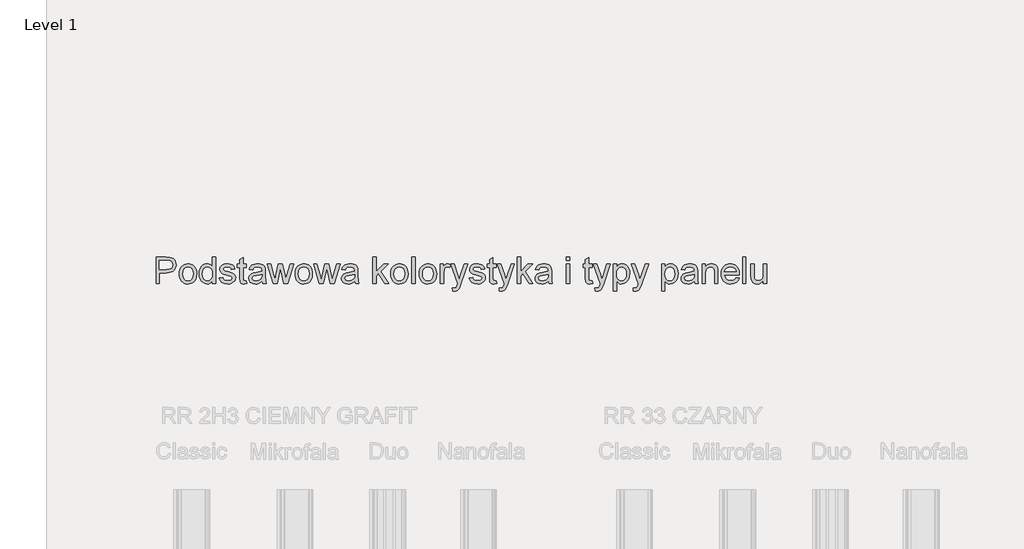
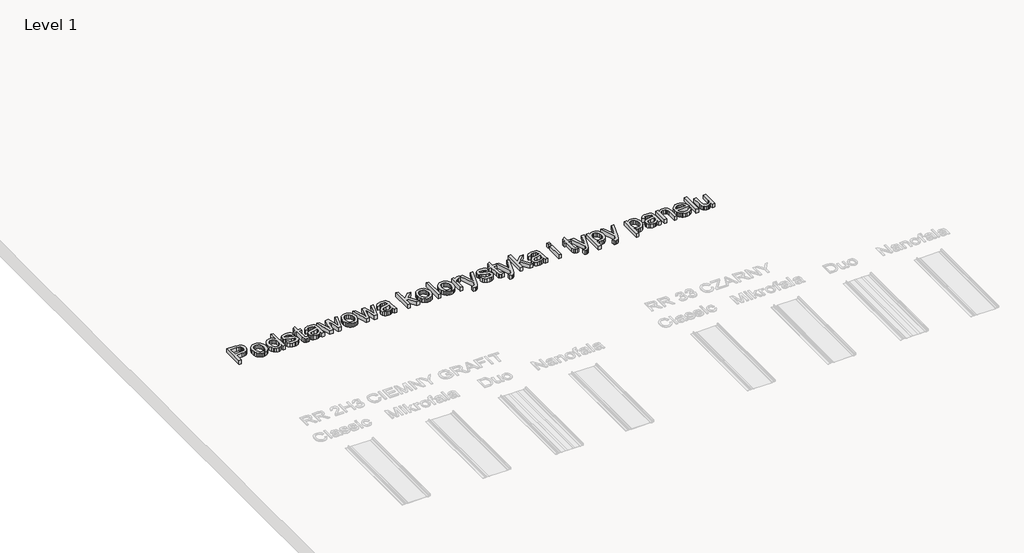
# One storey, part 20 of 24: 1 proxy.
"""IFC4 building model written with IfcOpenShell, lengths in millimetres."""

from ifc_helpers import new_model, si_unit, frame, origin, place, context, project, spatial, polyline, outline, extrude, element, save

model = new_model("IFC4")

# Units and contexts
model_context = context("Model", 3, world=origin())
ifc_project = project(units=[si_unit("LENGTHUNIT", "METRE", prefix="MILLI")], contexts=[model_context])

# Site, building, storey
site = spatial("IfcSite", under=ifc_project)
building = spatial("IfcBuilding", under=site)
storey = spatial("IfcBuildingStorey", under=building, Name="Level 1", Elevation=0.0)

# Proxy
placement = place(None, origin())
element("IfcBuildingElementProxy", 1, Name="250", ObjectType="250", at=placement, inside=storey, context=model_context, shape_type="SweptSolid", body=[
    extrude(outline(polyline([(-8797.1954693, 2793.1104745), (-8797.1954693, 3044.2512499), (-8704.1213245, 3044.2512499), (-8666.597361, 3041.8600169), (-8649.8663944, 3037.3917835), (-8636.0938123, 3030.1184499), (-8625.0037029, 3019.7104551), (-8616.320155, 3005.8382382), (-8610.7099546, 2989.4751536), (-8608.8398878, 2971.5945558), (-8613.890601, 2941.9953836), (-8629.0427407, 2917.3319616), (-8641.1770984, 2907.6214097), (-8657.3773185, 2900.6853013), (-8677.6434011, 2896.5236362), (-8701.9753462, 2895.1364145), (-8765.8028724, 2895.1364145), (-8765.8028724, 2793.1104745), (-8797.1954693, 2793.1104745)]), holes=[polyline([(-8765.8028724, 2926.5290114), (-8700.1359362, 2926.5290114), (-8672.2995319, 2929.4107537), (-8653.9054322, 2938.0559806), (-8643.6507216, 2951.9281975), (-8640.2324847, 2970.4909099), (-8642.2481715, 2984.593053), (-8648.2952318, 2996.4879042), (-8657.6225732, 3005.4396994), (-8669.4791033, 3010.7126747), (-8700.8717002, 3012.858653), (-8765.8028724, 3012.858653), (-8765.8028724, 2926.5290114)])]), frame((0.0, 0.0, 600.0), z_axis=(0.0, 0.0, 1.0), x_axis=(1.0, 0.0, 0.0)), (0.0, 0.0, 1.0), 50.0),
    extrude(outline(polyline([(-8577.4472909, 2885.326228), (-8575.7496687, 2909.2117329), (-8570.6568024, 2929.7939641), (-8562.1686917, 2947.0729216), (-8550.2853369, 2961.0486053), (-8525.116077, 2976.3616934), (-8494.9804103, 2981.466056), (-8477.6612157, 2979.9121378), (-8462.0013222, 2975.2503832), (-8448.0007299, 2967.4807921), (-8435.6594385, 2956.6033645), (-8425.5867529, 2942.9859826), (-8418.3919774, 2926.9965281), (-8414.0751121, 2908.6350013), (-8412.636157, 2887.9014019), (-8415.1806741, 2856.1869083), (-8422.8142255, 2832.0446523), (-8435.3145492, 2813.9647851), (-8452.459383, 2800.4374576), (-8472.8231843, 2791.9991643), (-8494.9804103, 2789.1863999), (-8512.5525237, 2790.73457), (-8528.3580371, 2795.3790802), (-8542.3969506, 2803.1199305), (-8554.669264, 2813.9571209), (-8564.6346507, 2827.7067105), (-8571.7527841, 2844.1847582), (-8576.0236642, 2863.391264), (-8577.4472909, 2885.326228)]), holes=[polyline([(-8546.0546939, 2885.3875416), (-8542.4218592, 2856.9763217), (-8531.5233551, 2836.7351478), (-8515.1219495, 2824.6180346), (-8494.9804103, 2820.5789968), (-8474.9308415, 2824.6410272), (-8458.5600927, 2836.8271183), (-8447.6615886, 2857.3365395), (-8444.0287539, 2886.3685603), (-8447.6845813, 2913.9520457), (-8458.6520632, 2933.9173082), (-8475.0458047, 2946.0344214), (-8494.9804103, 2950.0734591), (-8515.1219495, 2946.0497498), (-8531.5233551, 2933.9786218), (-8542.4218592, 2913.7834331), (-8546.0546939, 2885.3875416)])]), frame((0.0, 0.0, 600.0), z_axis=(0.0, 0.0, 1.0), x_axis=(1.0, 0.0, 0.0)), (0.0, 0.0, 1.0), 50.0),
    extrude(outline(polyline([(-8263.5213216, 2793.1104745), (-8263.5213216, 2822.7249751), (-8272.9138088, 2808.0518485), (-8284.2913259, 2797.5710437), (-8297.653873, 2791.2825609), (-8313.00145, 2789.1863999), (-8333.2962734, 2792.2214264), (-8351.8743141, 2801.3265057), (-8367.6012694, 2815.8655088), (-8379.3428365, 2835.2023061), (-8386.6544911, 2858.5551486), (-8389.0917093, 2885.142287), (-8386.8460963, 2911.3998644), (-8380.1092573, 2935.1129247), (-8368.8888564, 2954.9325671), (-8353.192558, 2969.5098912), (-8334.2083142, 2978.4770148), (-8313.1240773, 2981.466056), (-8297.765004, 2979.3277419), (-8284.184027, 2972.9127997), (-8272.6723863, 2963.0796205), (-8263.5213216, 2950.6865958), (-8263.5213216, 3044.2512499), (-8232.1287247, 3044.2512499), (-8232.1287247, 2793.1104745), (-8263.5213216, 2793.1104745)]), holes=[polyline([(-8357.6991124, 2885.2649143), (-8354.1582482, 2856.8690228), (-8343.5356556, 2836.6738341), (-8328.0999402, 2824.6027061), (-8310.1197077, 2820.5789968), (-8292.1471394, 2824.4187651), (-8277.1022986, 2835.9380701), (-8266.9165659, 2855.3515096), (-8263.5213216, 2882.8736813), (-8266.9778795, 2912.9633629), (-8277.3475533, 2933.8253377), (-8292.7756045, 2946.0114288), (-8311.4072947, 2950.0734591), (-8329.5714682, 2946.1723771), (-8344.4553606, 2934.4691312), (-8354.3881744, 2914.365913), (-8357.6991124, 2885.2649143)])]), frame((0.0, 0.0, 600.0), z_axis=(0.0, 0.0, 1.0), x_axis=(1.0, 0.0, 0.0)), (0.0, 0.0, 1.0), 50.0),
    extrude(outline(polyline([(-8196.8120532, 2848.0475191), (-8165.4194563, 2851.9715937), (-8160.4683777, 2838.5439009), (-8150.8881174, 2828.6724007), (-8136.6173617, 2822.6023478), (-8117.5947969, 2820.5789968), (-8098.8021583, 2822.4337352), (-8085.5890633, 2827.9979504), (-8077.7715709, 2836.0606975), (-8075.1657401, 2845.4110315), (-8077.7868993, 2853.4124649), (-8085.650377, 2859.5131746), (-8117.9626789, 2868.4649699), (-8165.2355153, 2883.8240432), (-8177.1993443, 2891.5419009), (-8185.8675638, 2901.7582904), (-8191.1328749, 2913.8217542), (-8192.8879786, 2927.0808344), (-8187.2471213, 2950.471998), (-8171.8573912, 2968.3449316), (-8151.8997929, 2977.6339519), (-8124.8911231, 2981.466056), (-8104.458344, 2979.9255502), (-8086.6927093, 2975.3040326), (-8072.4066251, 2968.0536916), (-8062.4124976, 2958.6267155), (-8055.7906217, 2946.3256613), (-8051.6212924, 2930.453086), (-8083.0138893, 2926.5290114), (-8086.976285, 2936.4081758), (-8094.81677, 2943.850122), (-8106.6119865, 2948.5176249), (-8122.4385765, 2950.0734591), (-8140.4647942, 2948.5866027), (-8152.4822728, 2944.1260335), (-8159.2421044, 2937.6880986), (-8161.4953816, 2930.2691451), (-8157.755248, 2921.1334088), (-8146.0443378, 2914.2049646), (-8119.0050112, 2907.521775), (-8072.9277913, 2892.7451815), (-8060.7570286, 2885.6787816), (-8051.5293219, 2876.0065508), (-8045.7121879, 2863.6978323), (-8043.7731432, 2848.7219695), (-8046.049413, 2833.2402688), (-8052.8782226, 2818.6782732), (-8063.9989887, 2806.1779496), (-8079.1511284, 2796.881265), (-8097.4532576, 2791.1101162), (-8118.0239925, 2789.1863999), (-8149.6771725, 2792.8958767), (-8172.7770962, 2804.024307), (-8188.1974831, 2822.4490636), (-8196.8120532, 2848.0475191)])), frame((0.0, 0.0, 600.0), z_axis=(0.0, 0.0, 1.0), x_axis=(1.0, 0.0, 0.0)), (0.0, 0.0, 1.0), 50.0),
    extrude(outline(polyline([(-7941.7472032, 2819.2914098), (-7937.8231286, 2792.1907695), (-7961.3062626, 2789.1863999), (-7976.374096, 2790.4893153), (-7987.6098253, 2794.3980615), (-8000.7309497, 2808.071009), (-8004.532397, 2843.6942489), (-8004.532397, 2946.1493845), (-8028.0768447, 2946.1493845), (-8028.0768447, 2977.5419814), (-8004.532397, 2977.5419814), (-8004.532397, 3022.3622712), (-7973.1398001, 3040.8176846), (-7973.1398001, 2977.5419814), (-7941.7472032, 2977.5419814), (-7941.7472032, 2946.1493845), (-7973.1398001, 2946.1493845), (-7973.1398001, 2844.6139538), (-7971.4843311, 2828.4271461), (-7966.1193854, 2822.6943183), (-7955.4201507, 2820.5789968), (-7941.7472032, 2819.2914098)])), frame((0.0, 0.0, 600.0), z_axis=(0.0, 0.0, 1.0), x_axis=(1.0, 0.0, 0.0)), (0.0, 0.0, 1.0), 50.0),
    extrude(outline(polyline([(-7792.6323678, 2816.6549222), (-7807.6312233, 2803.7943808), (-7823.0746029, 2795.3790802), (-7839.3150602, 2790.73457), (-7856.7051486, 2789.1863999), (-7882.9397334, 2792.9112051), (-7902.2918592, 2804.0856207), (-7914.2250314, 2821.0541777), (-7918.2027555, 2842.1614072), (-7916.7005707, 2855.1752328), (-7912.1940162, 2866.9934419), (-7896.4057473, 2885.0196596), (-7874.4247981, 2895.3203555), (-7847.2628441, 2900.0415078), (-7792.8163088, 2910.832713), (-7792.6323678, 2917.8224709), (-7794.7936745, 2931.8326435), (-7801.2775947, 2940.9990366), (-7815.7782767, 2947.8048535), (-7835.9811296, 2950.0734591), (-7854.6817977, 2948.5636101), (-7867.7416085, 2944.034063), (-7876.6474185, 2935.6570834), (-7882.886084, 2922.6049368), (-7914.2786809, 2926.5290114), (-7908.8294288, 2943.6968379), (-7900.6977039, 2957.1858444), (-7889.1247495, 2967.5018686), (-7873.3518089, 2975.1507485), (-7854.0609968, 2979.8872292), (-7831.9344276, 2981.466056), (-7810.712235, 2980.0711701), (-7793.889298, 2975.8865125), (-7781.2050333, 2969.5941975), (-7772.3988581, 2961.8763398), (-7762.7726125, 2940.5698409), (-7761.2397709, 2913.1013186), (-7761.2397709, 2874.0445135), (-7759.6456156, 2819.5060077), (-7753.3916217, 2793.1104745), (-7784.7842186, 2793.1104745), (-7792.6323678, 2816.6549222)]), holes=[polyline([(-7792.6323678, 2879.4401161), (-7843.2774558, 2869.8138705), (-7870.2861256, 2864.7248362), (-7882.518202, 2856.4474914), (-7886.8101586, 2844.3686992), (-7884.4725751, 2835.0336935), (-7877.4598245, 2827.3848137), (-7865.9251911, 2822.280451), (-7850.0219591, 2820.5789968), (-7833.1607009, 2822.4567278), (-7818.2614801, 2828.0899209), (-7806.182688, 2836.3902584), (-7797.7827157, 2846.2694228), (-7794.0579105, 2856.4474914), (-7792.8163088, 2870.5496345), (-7792.6323678, 2879.4401161)])]), frame((0.0, 0.0, 600.0), z_axis=(0.0, 0.0, 1.0), x_axis=(1.0, 0.0, 0.0)), (0.0, 0.0, 1.0), 50.0),
    extrude(outline(polyline([(-7687.2341762, 2793.1104745), (-7743.5814351, 2977.5419814), (-7711.0238785, 2977.5419814), (-7679.1407723, 2869.9364978), (-7669.6371541, 2831.4928293), (-7661.8503185, 2868.5262835), (-7636.5277745, 2977.5419814), (-7599.2490657, 2977.5419814), (-7573.9265217, 2868.8328519), (-7566.9980774, 2835.2942766), (-7557.0652636, 2870.6722618), (-7525.1821573, 2977.5419814), (-7492.4406597, 2977.5419814), (-7548.9718597, 2793.1104745), (-7586.8637052, 2793.1104745), (-7611.0212895, 2901.2677811), (-7618.0110474, 2934.9902973), (-7649.097076, 2793.1104745), (-7687.2341762, 2793.1104745)])), frame((0.0, 0.0, 600.0), z_axis=(0.0, 0.0, 1.0), x_axis=(1.0, 0.0, 0.0)), (0.0, 0.0, 1.0), 50.0),
    extrude(outline(polyline([(-7478.7063986, 2885.326228), (-7477.0087765, 2909.2117329), (-7471.9159101, 2929.7939641), (-7463.4277995, 2947.0729216), (-7451.5444446, 2961.0486053), (-7426.3751848, 2976.3616934), (-7396.239518, 2981.466056), (-7378.9203235, 2979.9121378), (-7363.26043, 2975.2503832), (-7349.2598376, 2967.4807921), (-7336.9185463, 2956.6033645), (-7326.8458606, 2942.9859826), (-7319.6510851, 2926.9965281), (-7315.3342198, 2908.6350013), (-7313.8952648, 2887.9014019), (-7316.4397819, 2856.1869083), (-7324.0733333, 2832.0446523), (-7336.5736569, 2813.9647851), (-7353.7184907, 2800.4374576), (-7374.082292, 2791.9991643), (-7396.239518, 2789.1863999), (-7413.8116314, 2790.73457), (-7429.6171449, 2795.3790802), (-7443.6560583, 2803.1199305), (-7455.9283717, 2813.9571209), (-7465.8937585, 2827.7067105), (-7473.0118919, 2844.1847582), (-7477.2827719, 2863.391264), (-7478.7063986, 2885.326228)]), holes=[polyline([(-7447.3138017, 2885.3875416), (-7443.680967, 2856.9763217), (-7432.7824629, 2836.7351478), (-7416.3810572, 2824.6180346), (-7396.239518, 2820.5789968), (-7376.1899493, 2824.6410272), (-7359.8192005, 2836.8271183), (-7348.9206964, 2857.3365395), (-7345.2878617, 2886.3685603), (-7348.943689, 2913.9520457), (-7359.911171, 2933.9173082), (-7376.3049124, 2946.0344214), (-7396.239518, 2950.0734591), (-7416.3810572, 2946.0497498), (-7432.7824629, 2933.9786218), (-7443.680967, 2913.7834331), (-7447.3138017, 2885.3875416)])]), frame((0.0, 0.0, 600.0), z_axis=(0.0, 0.0, 1.0), x_axis=(1.0, 0.0, 0.0)), (0.0, 0.0, 1.0), 50.0),
    extrude(outline(polyline([(-7247.7378193, 2793.1104745), (-7304.0850782, 2977.5419814), (-7271.5275216, 2977.5419814), (-7239.6444154, 2869.9364978), (-7230.1407972, 2831.4928293), (-7222.3539616, 2868.5262835), (-7197.0314176, 2977.5419814), (-7159.7527088, 2977.5419814), (-7134.4301648, 2868.8328519), (-7127.5017205, 2835.2942766), (-7117.5689067, 2870.6722618), (-7085.6858004, 2977.5419814), (-7052.9443028, 2977.5419814), (-7109.4755028, 2793.1104745), (-7147.3673483, 2793.1104745), (-7171.5249326, 2901.2677811), (-7178.5146905, 2934.9902973), (-7209.6007191, 2793.1104745), (-7247.7378193, 2793.1104745)])), frame((0.0, 0.0, 600.0), z_axis=(0.0, 0.0, 1.0), x_axis=(1.0, 0.0, 0.0)), (0.0, 0.0, 1.0), 50.0),
    extrude(outline(polyline([(-6913.639654, 2816.6549222), (-6928.6385095, 2803.7943808), (-6944.0818891, 2795.3790802), (-6960.3223463, 2790.73457), (-6977.7124348, 2789.1863999), (-7003.9470196, 2792.9112051), (-7023.2991454, 2804.0856207), (-7035.2323176, 2821.0541777), (-7039.2100417, 2842.1614072), (-7037.7078569, 2855.1752328), (-7033.2013024, 2866.9934419), (-7017.4130335, 2885.0196596), (-6995.4320843, 2895.3203555), (-6968.2701303, 2900.0415078), (-6913.823595, 2910.832713), (-6913.639654, 2917.8224709), (-6915.8009607, 2931.8326435), (-6922.2848809, 2940.9990366), (-6936.7855629, 2947.8048535), (-6956.9884158, 2950.0734591), (-6975.6890839, 2948.5636101), (-6988.7488947, 2944.034063), (-6997.6547046, 2935.6570834), (-7003.8933702, 2922.6049368), (-7035.2859671, 2926.5290114), (-7029.836715, 2943.6968379), (-7021.7049901, 2957.1858444), (-7010.1320357, 2967.5018686), (-6994.3590951, 2975.1507485), (-6975.068283, 2979.8872292), (-6952.9417138, 2981.466056), (-6931.7195212, 2980.0711701), (-6914.8965842, 2975.8865125), (-6902.2123195, 2969.5941975), (-6893.4061443, 2961.8763398), (-6883.7798987, 2940.5698409), (-6882.2470571, 2913.1013186), (-6882.2470571, 2874.0445135), (-6880.6529018, 2819.5060077), (-6874.3989078, 2793.1104745), (-6905.7915048, 2793.1104745), (-6913.639654, 2816.6549222)]), holes=[polyline([(-6913.639654, 2879.4401161), (-6964.284742, 2869.8138705), (-6991.2934118, 2864.7248362), (-7003.5254882, 2856.4474914), (-7007.8174448, 2844.3686992), (-7005.4798613, 2835.0336935), (-6998.4671107, 2827.3848137), (-6986.9324773, 2822.280451), (-6971.0292452, 2820.5789968), (-6954.1679871, 2822.4567278), (-6939.2687663, 2828.0899209), (-6927.1899742, 2836.3902584), (-6918.7900019, 2846.2694228), (-6915.0651967, 2856.4474914), (-6913.823595, 2870.5496345), (-6913.639654, 2879.4401161)])]), frame((0.0, 0.0, 600.0), z_axis=(0.0, 0.0, 1.0), x_axis=(1.0, 0.0, 0.0)), (0.0, 0.0, 1.0), 50.0),
    extrude(outline(polyline([(-6740.9803709, 2793.1104745), (-6740.9803709, 3044.2512499), (-6709.587774, 3044.2512499), (-6709.587774, 2909.2998713), (-6639.1996856, 2977.5419814), (-6595.7896102, 2977.5419814), (-6667.0974036, 2908.44148), (-6591.8655356, 2793.1104745), (-6628.5311077, 2793.1104745), (-6689.5995189, 2886.613815), (-6709.587774, 2867.1773829), (-6709.587774, 2793.1104745), (-6740.9803709, 2793.1104745)])), frame((0.0, 0.0, 600.0), z_axis=(0.0, 0.0, 1.0), x_axis=(1.0, 0.0, 0.0)), (0.0, 0.0, 1.0), 50.0),
    extrude(outline(polyline([(-6572.2451625, 2885.326228), (-6570.5475404, 2909.2117329), (-6565.454674, 2929.7939641), (-6556.9665634, 2947.0729216), (-6545.0832085, 2961.0486053), (-6519.9139487, 2976.3616934), (-6489.7782819, 2981.466056), (-6472.4590873, 2979.9121378), (-6456.7991939, 2975.2503832), (-6442.7986015, 2967.4807921), (-6430.4573102, 2956.6033645), (-6420.3846245, 2942.9859826), (-6413.189849, 2926.9965281), (-6408.8729837, 2908.6350013), (-6407.4340286, 2887.9014019), (-6409.9785458, 2856.1869083), (-6417.6120972, 2832.0446523), (-6430.1124208, 2813.9647851), (-6447.2572546, 2800.4374576), (-6467.6210559, 2791.9991643), (-6489.7782819, 2789.1863999), (-6507.3503953, 2790.73457), (-6523.1559087, 2795.3790802), (-6537.1948222, 2803.1199305), (-6549.4671356, 2813.9571209), (-6559.4325224, 2827.7067105), (-6566.5506558, 2844.1847582), (-6570.8215358, 2863.391264), (-6572.2451625, 2885.326228)]), holes=[polyline([(-6540.8525656, 2885.3875416), (-6537.2197309, 2856.9763217), (-6526.3212267, 2836.7351478), (-6509.9198211, 2824.6180346), (-6489.7782819, 2820.5789968), (-6469.7287132, 2824.6410272), (-6453.3579644, 2836.8271183), (-6442.4594603, 2857.3365395), (-6438.8266256, 2886.3685603), (-6442.4824529, 2913.9520457), (-6453.4499349, 2933.9173082), (-6469.8436763, 2946.0344214), (-6489.7782819, 2950.0734591), (-6509.9198211, 2946.0497498), (-6526.3212267, 2933.9786218), (-6537.2197309, 2913.7834331), (-6540.8525656, 2885.3875416)])]), frame((0.0, 0.0, 600.0), z_axis=(0.0, 0.0, 1.0), x_axis=(1.0, 0.0, 0.0)), (0.0, 0.0, 1.0), 50.0),
    extrude(outline(polyline([(-6372.1173571, 2793.1104745), (-6372.1173571, 3044.2512499), (-6340.7247602, 3044.2512499), (-6340.7247602, 2793.1104745), (-6372.1173571, 2793.1104745)])), frame((0.0, 0.0, 600.0), z_axis=(0.0, 0.0, 1.0), x_axis=(1.0, 0.0, 0.0)), (0.0, 0.0, 1.0), 50.0),
    extrude(outline(polyline([(-6301.484014, 2885.326228), (-6299.7863919, 2909.2117329), (-6294.6935255, 2929.7939641), (-6286.2054149, 2947.0729216), (-6274.32206, 2961.0486053), (-6249.1528002, 2976.3616934), (-6219.0171334, 2981.466056), (-6201.6979389, 2979.9121378), (-6186.0380454, 2975.2503832), (-6172.037453, 2967.4807921), (-6159.6961617, 2956.6033645), (-6149.623476, 2942.9859826), (-6142.4287006, 2926.9965281), (-6138.1118353, 2908.6350013), (-6136.6728802, 2887.9014019), (-6139.2173973, 2856.1869083), (-6146.8509487, 2832.0446523), (-6159.3512723, 2813.9647851), (-6176.4961062, 2800.4374576), (-6196.8599074, 2791.9991643), (-6219.0171334, 2789.1863999), (-6236.5892469, 2790.73457), (-6252.3947603, 2795.3790802), (-6266.4336737, 2803.1199305), (-6278.7059872, 2813.9571209), (-6288.6713739, 2827.7067105), (-6295.7895073, 2844.1847582), (-6300.0603873, 2863.391264), (-6301.484014, 2885.326228)]), holes=[polyline([(-6270.0914171, 2885.3875416), (-6266.4585824, 2856.9763217), (-6255.5600783, 2836.7351478), (-6239.1586727, 2824.6180346), (-6219.0171334, 2820.5789968), (-6198.9675647, 2824.6410272), (-6182.5968159, 2836.8271183), (-6171.6983118, 2857.3365395), (-6168.0654771, 2886.3685603), (-6171.7213044, 2913.9520457), (-6182.6887864, 2933.9173082), (-6199.0825278, 2946.0344214), (-6219.0171334, 2950.0734591), (-6239.1586727, 2946.0497498), (-6255.5600783, 2933.9786218), (-6266.4585824, 2913.7834331), (-6270.0914171, 2885.3875416)])]), frame((0.0, 0.0, 600.0), z_axis=(0.0, 0.0, 1.0), x_axis=(1.0, 0.0, 0.0)), (0.0, 0.0, 1.0), 50.0),
    extrude(outline(polyline([(-6101.3562087, 2793.1104745), (-6101.3562087, 2977.5419814), (-6073.8876863, 2977.5419814), (-6073.8876863, 2950.2574001), (-6063.7402746, 2966.0763259), (-6054.3899406, 2975.3960031), (-6034.7695675, 2981.466056), (-6019.1345827, 2979.0441662), (-6003.2543433, 2971.7784968), (-6013.7389801, 2943.6355242), (-6035.8118998, 2950.0734591), (-6045.1852265, 2948.5252891), (-6053.5622061, 2943.8807789), (-6064.8745775, 2926.7129524), (-6069.9636117, 2890.0473802), (-6069.9636117, 2793.1104745), (-6101.3562087, 2793.1104745)])), frame((0.0, 0.0, 600.0), z_axis=(0.0, 0.0, 1.0), x_axis=(1.0, 0.0, 0.0)), (0.0, 0.0, 1.0), 50.0),
    extrude(outline(polyline([(-5983.6339702, 2722.4771314), (-5987.5580448, 2752.7047687), (-5971.6164917, 2749.9456537), (-5956.7172709, 2753.4098759), (-5947.5815347, 2763.0667782), (-5938.9976214, 2786.1820303), (-5936.5450748, 2793.7849248), (-6003.2543433, 2977.5419814), (-5970.2062774, 2977.5419814), (-5934.7669785, 2875.0868458), (-5922.4429317, 2834.129317), (-5910.1188848, 2870.3656935), (-5873.759881, 2977.5419814), (-5840.9570697, 2977.5419814), (-5905.1524779, 2788.6958906), (-5921.829795, 2747.7383618), (-5930.367723, 2734.6632225), (-5940.0399538, 2725.6041284), (-5951.2603546, 2720.3158247), (-5964.4427928, 2718.5530568), (-5983.6339702, 2722.4771314)])), frame((0.0, 0.0, 600.0), z_axis=(0.0, 0.0, 1.0), x_axis=(1.0, 0.0, 0.0)), (0.0, 0.0, 1.0), 50.0),
    extrude(outline(polyline([(-5826.6709856, 2848.0475191), (-5795.2783887, 2851.9715937), (-5790.3273101, 2838.5439009), (-5780.7470499, 2828.6724007), (-5766.4762941, 2822.6023478), (-5747.4537293, 2820.5789968), (-5728.6610907, 2822.4337352), (-5715.4479957, 2827.9979504), (-5707.6305033, 2836.0606975), (-5705.0246725, 2845.4110315), (-5707.6458317, 2853.4124649), (-5715.5093094, 2859.5131746), (-5747.8216113, 2868.4649699), (-5795.0944477, 2883.8240432), (-5807.0582767, 2891.5419009), (-5815.7264962, 2901.7582904), (-5820.9918073, 2913.8217542), (-5822.746911, 2927.0808344), (-5817.1060537, 2950.471998), (-5801.7163236, 2968.3449316), (-5781.7587253, 2977.6339519), (-5754.7500555, 2981.466056), (-5734.3172764, 2979.9255502), (-5716.5516417, 2975.3040326), (-5702.2655575, 2968.0536916), (-5692.27143, 2958.6267155), (-5685.6495541, 2946.3256613), (-5681.4802248, 2930.453086), (-5712.8728217, 2926.5290114), (-5716.8352174, 2936.4081758), (-5724.6757024, 2943.850122), (-5736.4709189, 2948.5176249), (-5752.2975089, 2950.0734591), (-5770.3237267, 2948.5866027), (-5782.3412052, 2944.1260335), (-5789.1010368, 2937.6880986), (-5791.354314, 2930.2691451), (-5787.6141804, 2921.1334088), (-5775.9032703, 2914.2049646), (-5748.8639436, 2907.521775), (-5702.7867237, 2892.7451815), (-5690.615961, 2885.6787816), (-5681.3882543, 2876.0065508), (-5675.5711203, 2863.6978323), (-5673.6320756, 2848.7219695), (-5675.9083454, 2833.2402688), (-5682.737155, 2818.6782732), (-5693.8579211, 2806.1779496), (-5709.0100608, 2796.881265), (-5727.3121901, 2791.1101162), (-5747.882925, 2789.1863999), (-5779.536105, 2792.8958767), (-5802.6360286, 2804.024307), (-5818.0564155, 2822.4490636), (-5826.6709856, 2848.0475191)])), frame((0.0, 0.0, 600.0), z_axis=(0.0, 0.0, 1.0), x_axis=(1.0, 0.0, 0.0)), (0.0, 0.0, 1.0), 50.0),
    extrude(outline(polyline([(-5571.6061356, 2819.2914098), (-5567.682061, 2792.1907695), (-5591.165195, 2789.1863999), (-5606.2330284, 2790.4893153), (-5617.4687577, 2794.3980615), (-5630.5898822, 2808.071009), (-5634.3913294, 2843.6942489), (-5634.3913294, 2946.1493845), (-5657.9357771, 2946.1493845), (-5657.9357771, 2977.5419814), (-5634.3913294, 2977.5419814), (-5634.3913294, 3022.3622712), (-5602.9987325, 3040.8176846), (-5602.9987325, 2977.5419814), (-5571.6061356, 2977.5419814), (-5571.6061356, 2946.1493845), (-5602.9987325, 2946.1493845), (-5602.9987325, 2844.6139538), (-5601.3432635, 2828.4271461), (-5595.9783178, 2822.6943183), (-5585.2790831, 2820.5789968), (-5571.6061356, 2819.2914098)])), frame((0.0, 0.0, 600.0), z_axis=(0.0, 0.0, 1.0), x_axis=(1.0, 0.0, 0.0)), (0.0, 0.0, 1.0), 50.0),
    extrude(outline(polyline([(-5540.2135387, 2722.4771314), (-5544.1376133, 2752.7047687), (-5528.1960602, 2749.9456537), (-5513.2968394, 2753.4098759), (-5504.1611031, 2763.0667782), (-5495.5771899, 2786.1820303), (-5493.1246433, 2793.7849248), (-5559.8339118, 2977.5419814), (-5526.7858459, 2977.5419814), (-5491.346547, 2875.0868458), (-5479.0225001, 2834.129317), (-5466.6984533, 2870.3656935), (-5430.3394494, 2977.5419814), (-5397.5366382, 2977.5419814), (-5461.7320464, 2788.6958906), (-5478.4093635, 2747.7383618), (-5486.9472915, 2734.6632225), (-5496.6195222, 2725.6041284), (-5507.8399231, 2720.3158247), (-5521.0223613, 2718.5530568), (-5540.2135387, 2722.4771314)])), frame((0.0, 0.0, 600.0), z_axis=(0.0, 0.0, 1.0), x_axis=(1.0, 0.0, 0.0)), (0.0, 0.0, 1.0), 50.0),
    extrude(outline(polyline([(-5371.4783302, 2793.1104745), (-5371.4783302, 3044.2512499), (-5340.0857333, 3044.2512499), (-5340.0857333, 2909.2998713), (-5269.6976449, 2977.5419814), (-5226.2875695, 2977.5419814), (-5297.5953629, 2908.44148), (-5222.3634948, 2793.1104745), (-5259.029067, 2793.1104745), (-5320.0974782, 2886.613815), (-5340.0857333, 2867.1773829), (-5340.0857333, 2793.1104745), (-5371.4783302, 2793.1104745)])), frame((0.0, 0.0, 600.0), z_axis=(0.0, 0.0, 1.0), x_axis=(1.0, 0.0, 0.0)), (0.0, 0.0, 1.0), 50.0),
    extrude(outline(polyline([(-5077.1727341, 2816.6549222), (-5092.1715896, 2803.7943808), (-5107.6149692, 2795.3790802), (-5123.8554264, 2790.73457), (-5141.2455149, 2789.1863999), (-5167.4800997, 2792.9112051), (-5186.8322255, 2804.0856207), (-5198.7653977, 2821.0541777), (-5202.7431218, 2842.1614072), (-5201.240937, 2855.1752328), (-5196.7343825, 2866.9934419), (-5180.9461136, 2885.0196596), (-5158.9651643, 2895.3203555), (-5131.8032104, 2900.0415078), (-5077.3566751, 2910.832713), (-5077.1727341, 2917.8224709), (-5079.3340408, 2931.8326435), (-5085.817961, 2940.9990366), (-5100.3186429, 2947.8048535), (-5120.5214958, 2950.0734591), (-5139.2221639, 2948.5636101), (-5152.2819748, 2944.034063), (-5161.1877847, 2935.6570834), (-5167.4264502, 2922.6049368), (-5198.8190472, 2926.5290114), (-5193.3697951, 2943.6968379), (-5185.2380702, 2957.1858444), (-5173.6651157, 2967.5018686), (-5157.8921752, 2975.1507485), (-5138.6013631, 2979.8872292), (-5116.4747939, 2981.466056), (-5095.2526013, 2980.0711701), (-5078.4296642, 2975.8865125), (-5065.7453996, 2969.5941975), (-5056.9392243, 2961.8763398), (-5047.3129788, 2940.5698409), (-5045.7801372, 2913.1013186), (-5045.7801372, 2874.0445135), (-5044.1859818, 2819.5060077), (-5037.9319879, 2793.1104745), (-5069.3245848, 2793.1104745), (-5077.1727341, 2816.6549222)]), holes=[polyline([(-5077.1727341, 2879.4401161), (-5127.8178221, 2869.8138705), (-5154.8264919, 2864.7248362), (-5167.0585682, 2856.4474914), (-5171.3505248, 2844.3686992), (-5169.0129413, 2835.0336935), (-5162.0001908, 2827.3848137), (-5150.4655574, 2822.280451), (-5134.5623253, 2820.5789968), (-5117.7010672, 2822.4567278), (-5102.8018464, 2828.0899209), (-5090.7230542, 2836.3902584), (-5082.323082, 2846.2694228), (-5078.5982768, 2856.4474914), (-5077.3566751, 2870.5496345), (-5077.1727341, 2879.4401161)])]), frame((0.0, 0.0, 600.0), z_axis=(0.0, 0.0, 1.0), x_axis=(1.0, 0.0, 0.0)), (0.0, 0.0, 1.0), 50.0),
    extrude(outline(polyline([(-4904.513451, 3012.858653), (-4904.513451, 3044.2512499), (-4873.1208541, 3044.2512499), (-4873.1208541, 3012.858653), (-4904.513451, 3012.858653)])), frame((0.0, 0.0, 600.0), z_axis=(0.0, 0.0, 1.0), x_axis=(1.0, 0.0, 0.0)), (0.0, 0.0, 1.0), 50.0),
    extrude(outline(polyline([(-4904.513451, 2793.1104745), (-4904.513451, 2977.5419814), (-4873.1208541, 2977.5419814), (-4873.1208541, 2793.1104745), (-4904.513451, 2793.1104745)])), frame((0.0, 0.0, 600.0), z_axis=(0.0, 0.0, 1.0), x_axis=(1.0, 0.0, 0.0)), (0.0, 0.0, 1.0), 50.0),
    extrude(outline(polyline([(-4661.2208249, 2819.2914098), (-4657.2967502, 2792.1907695), (-4680.7798843, 2789.1863999), (-4695.8477177, 2790.4893153), (-4707.0834469, 2794.3980615), (-4720.2045714, 2808.071009), (-4724.0060187, 2843.6942489), (-4724.0060187, 2946.1493845), (-4747.5504664, 2946.1493845), (-4747.5504664, 2977.5419814), (-4724.0060187, 2977.5419814), (-4724.0060187, 3022.3622712), (-4692.6134218, 3040.8176846), (-4692.6134218, 2977.5419814), (-4661.2208249, 2977.5419814), (-4661.2208249, 2946.1493845), (-4692.6134218, 2946.1493845), (-4692.6134218, 2844.6139538), (-4690.9579528, 2828.4271461), (-4685.593007, 2822.6943183), (-4674.8937724, 2820.5789968), (-4661.2208249, 2819.2914098)])), frame((0.0, 0.0, 600.0), z_axis=(0.0, 0.0, 1.0), x_axis=(1.0, 0.0, 0.0)), (0.0, 0.0, 1.0), 50.0),
    extrude(outline(polyline([(-4629.8282279, 2722.4771314), (-4633.7523026, 2752.7047687), (-4617.8107494, 2749.9456537), (-4602.9115286, 2753.4098759), (-4593.7757924, 2763.0667782), (-4585.1918792, 2786.1820303), (-4582.7393326, 2793.7849248), (-4649.448601, 2977.5419814), (-4616.4005351, 2977.5419814), (-4580.9612363, 2875.0868458), (-4568.6371894, 2834.129317), (-4556.3131426, 2870.3656935), (-4519.9541387, 2977.5419814), (-4487.1513275, 2977.5419814), (-4551.3467356, 2788.6958906), (-4568.0240528, 2747.7383618), (-4576.5619807, 2734.6632225), (-4586.2342115, 2725.6041284), (-4597.4546124, 2720.3158247), (-4610.6370505, 2718.5530568), (-4629.8282279, 2722.4771314)])), frame((0.0, 0.0, 600.0), z_axis=(0.0, 0.0, 1.0), x_axis=(1.0, 0.0, 0.0)), (0.0, 0.0, 1.0), 50.0),
    extrude(outline(polyline([(-4461.0930195, 2722.4771314), (-4461.0930195, 2977.5419814), (-4429.7004226, 2977.5419814), (-4429.7004226, 2946.7625212), (-4419.4610404, 2961.9453177), (-4407.9953849, 2972.7901723), (-4394.6290057, 2979.2970851), (-4378.6874526, 2981.466056), (-4357.4575958, 2978.4310296), (-4338.8948834, 2969.3259502), (-4323.7810648, 2954.7026409), (-4312.8978891, 2935.1129247), (-4306.3219984, 2911.9823442), (-4304.1300349, 2886.7364423), (-4306.6055741, 2859.8887208), (-4314.0321919, 2835.8767565), (-4326.1722978, 2815.9191582), (-4342.7883012, 2801.2345352), (-4362.140427, 2792.1984337), (-4382.4888999, 2789.1863999), (-4396.920604, 2791.2020867), (-4409.804138, 2797.249147), (-4429.7004226, 2817.6359409), (-4429.7004226, 2722.4771314), (-4461.0930195, 2722.4771314)]), holes=[polyline([(-4429.7004226, 2883.8547), (-4426.3051783, 2855.7117274), (-4416.1194456, 2836.0300406), (-4401.0899332, 2824.4417578), (-4383.1633502, 2820.5789968), (-4364.9455272, 2824.5797135), (-4349.5328045, 2836.5818636), (-4339.025175, 2856.9839859), (-4335.5226318, 2886.1846193), (-4338.9408687, 2914.1743078), (-4349.1955793, 2934.131906), (-4364.202099, 2946.0880708), (-4381.8757632, 2950.0734591), (-4399.6184053, 2945.835152), (-4415.1997406, 2933.1202305), (-4426.0752521, 2912.3272336), (-4429.7004226, 2883.8547)])]), frame((0.0, 0.0, 600.0), z_axis=(0.0, 0.0, 1.0), x_axis=(1.0, 0.0, 0.0)), (0.0, 0.0, 1.0), 50.0),
    extrude(outline(polyline([(-4268.8133633, 2722.4771314), (-4272.737438, 2752.7047687), (-4256.7958848, 2749.9456537), (-4241.896664, 2753.4098759), (-4232.7609278, 2763.0667782), (-4224.1770146, 2786.1820303), (-4221.724468, 2793.7849248), (-4288.4337364, 2977.5419814), (-4255.3856705, 2977.5419814), (-4219.9463717, 2875.0868458), (-4207.6223248, 2834.129317), (-4195.298278, 2870.3656935), (-4158.9392741, 2977.5419814), (-4126.1364629, 2977.5419814), (-4190.331871, 2788.6958906), (-4207.0091882, 2747.7383618), (-4215.5471161, 2734.6632225), (-4225.2193469, 2725.6041284), (-4236.4397478, 2720.3158247), (-4249.6221859, 2718.5530568), (-4268.8133633, 2722.4771314)])), frame((0.0, 0.0, 600.0), z_axis=(0.0, 0.0, 1.0), x_axis=(1.0, 0.0, 0.0)), (0.0, 0.0, 1.0), 50.0),
    extrude(outline(polyline([(-4001.9762895, 2722.4771314), (-4001.9762895, 2977.5419814), (-3970.5836926, 2977.5419814), (-3970.5836926, 2946.7625212), (-3960.3443104, 2961.9453177), (-3948.8786549, 2972.7901723), (-3935.5122757, 2979.2970851), (-3919.5707226, 2981.466056), (-3898.3408658, 2978.4310296), (-3879.7781534, 2969.3259502), (-3864.6643348, 2954.7026409), (-3853.7811591, 2935.1129247), (-3847.2052685, 2911.9823442), (-3845.0133049, 2886.7364423), (-3847.4888442, 2859.8887208), (-3854.9154619, 2835.8767565), (-3867.0555678, 2815.9191582), (-3883.6715712, 2801.2345352), (-3903.023697, 2792.1984337), (-3923.3721699, 2789.1863999), (-3937.803874, 2791.2020867), (-3950.687408, 2797.249147), (-3970.5836926, 2817.6359409), (-3970.5836926, 2722.4771314), (-4001.9762895, 2722.4771314)]), holes=[polyline([(-3970.5836926, 2883.8547), (-3967.1884483, 2855.7117274), (-3957.0027156, 2836.0300406), (-3941.9732033, 2824.4417578), (-3924.0466202, 2820.5789968), (-3905.8287972, 2824.5797135), (-3890.4160745, 2836.5818636), (-3879.908445, 2856.9839859), (-3876.4059018, 2886.1846193), (-3879.8241387, 2914.1743078), (-3890.0788493, 2934.131906), (-3905.085369, 2946.0880708), (-3922.7590332, 2950.0734591), (-3940.5016753, 2945.835152), (-3956.0830106, 2933.1202305), (-3966.9585221, 2912.3272336), (-3970.5836926, 2883.8547)])]), frame((0.0, 0.0, 600.0), z_axis=(0.0, 0.0, 1.0), x_axis=(1.0, 0.0, 0.0)), (0.0, 0.0, 1.0), 50.0),
    extrude(outline(polyline([(-3691.9743949, 2816.6549222), (-3706.9732504, 2803.7943808), (-3722.41663, 2795.3790802), (-3738.6570873, 2790.73457), (-3756.0471757, 2789.1863999), (-3782.2817605, 2792.9112051), (-3801.6338863, 2804.0856207), (-3813.5670585, 2821.0541777), (-3817.5447826, 2842.1614072), (-3816.0425978, 2855.1752328), (-3811.5360433, 2866.9934419), (-3795.7477744, 2885.0196596), (-3773.7668252, 2895.3203555), (-3746.6048712, 2900.0415078), (-3692.1583359, 2910.832713), (-3691.9743949, 2917.8224709), (-3694.1357016, 2931.8326435), (-3700.6196218, 2940.9990366), (-3715.1203038, 2947.8048535), (-3735.3231567, 2950.0734591), (-3754.0238248, 2948.5636101), (-3767.0836356, 2944.034063), (-3775.9894456, 2935.6570834), (-3782.2281111, 2922.6049368), (-3813.620708, 2926.5290114), (-3808.1714559, 2943.6968379), (-3800.039731, 2957.1858444), (-3788.4667766, 2967.5018686), (-3772.693836, 2975.1507485), (-3753.4030239, 2979.8872292), (-3731.2764547, 2981.466056), (-3710.0542621, 2980.0711701), (-3693.2313251, 2975.8865125), (-3680.5470604, 2969.5941975), (-3671.7408852, 2961.8763398), (-3662.1146396, 2940.5698409), (-3660.581798, 2913.1013186), (-3660.581798, 2874.0445135), (-3658.9876427, 2819.5060077), (-3652.7336488, 2793.1104745), (-3684.1262457, 2793.1104745), (-3691.9743949, 2816.6549222)]), holes=[polyline([(-3691.9743949, 2879.4401161), (-3742.6194829, 2869.8138705), (-3769.6281527, 2864.7248362), (-3781.8602291, 2856.4474914), (-3786.1521857, 2844.3686992), (-3783.8146022, 2835.0336935), (-3776.8018516, 2827.3848137), (-3765.2672182, 2822.280451), (-3749.3639862, 2820.5789968), (-3732.502728, 2822.4567278), (-3717.6035072, 2828.0899209), (-3705.5247151, 2836.3902584), (-3697.1247428, 2846.2694228), (-3693.3999376, 2856.4474914), (-3692.1583359, 2870.5496345), (-3691.9743949, 2879.4401161)])]), frame((0.0, 0.0, 600.0), z_axis=(0.0, 0.0, 1.0), x_axis=(1.0, 0.0, 0.0)), (0.0, 0.0, 1.0), 50.0),
    extrude(outline(polyline([(-3617.4169772, 2793.1104745), (-3617.4169772, 2977.5419814), (-3586.0243803, 2977.5419814), (-3586.0243803, 2951.7902418), (-3575.118212, 2964.7734105), (-3562.0200801, 2974.0471025), (-3546.7299847, 2979.6113177), (-3529.2479257, 2981.466056), (-3513.7738893, 2979.9715354), (-3499.6027683, 2975.4879736), (-3487.7845592, 2968.5748578), (-3479.3692585, 2959.7916752), (-3469.9576108, 2936.70708), (-3468.3021418, 2906.3568154), (-3468.3021418, 2793.1104745), (-3499.6947388, 2793.1104745), (-3499.6947388, 2902.1261724), (-3503.312245, 2929.9012631), (-3508.316973, 2938.1709437), (-3516.0961444, 2944.585886), (-3537.6478979, 2950.0734591), (-3556.0343335, 2946.9924474), (-3571.7076393, 2937.7494123), (-3582.4451951, 2919.8918071), (-3586.0243803, 2890.9670852), (-3586.0243803, 2793.1104745), (-3617.4169772, 2793.1104745)])), frame((0.0, 0.0, 600.0), z_axis=(0.0, 0.0, 1.0), x_axis=(1.0, 0.0, 0.0)), (0.0, 0.0, 1.0), 50.0),
    extrude(outline(polyline([(-3296.0107408, 2848.0475191), (-3265.2312805, 2844.1234445), (-3276.3213898, 2820.9315504), (-3294.0180466, 2803.5951114), (-3317.9227121, 2792.7885778), (-3347.6368474, 2789.1863999), (-3367.1154326, 2790.7403181), (-3384.4710322, 2795.4020728), (-3399.7036461, 2803.1716639), (-3412.8132742, 2814.0490914), (-3423.3553927, 2827.7316192), (-3430.8854772, 2843.9165109), (-3435.403528, 2862.6037666), (-3436.9095449, 2883.7933863), (-3435.3881996, 2905.7015256), (-3430.8241636, 2925.0114982), (-3423.2174369, 2941.7233043), (-3412.5680196, 2955.8369437), (-3399.4928803, 2967.0496804), (-3384.6089879, 2975.058778), (-3367.9163424, 2979.8642365), (-3349.4149437, 2981.466056), (-3331.5094372, 2979.8680686), (-3315.3168813, 2975.0741064), (-3300.8372759, 2967.0841693), (-3288.070621, 2955.8982574), (-3277.6492139, 2941.8152748), (-3270.2053516, 2925.1341255), (-3265.7390343, 2905.8548097), (-3264.2502618, 2883.9773273), (-3264.4342028, 2875.5160414), (-3405.516948, 2875.5160414), (-3400.0830244, 2852.017579), (-3387.4600734, 2834.7424536), (-3369.2422504, 2824.119861), (-3347.0237108, 2820.5789968), (-3330.3157368, 2822.2191374), (-3316.2442505, 2827.1395591), (-3304.8092518, 2835.6468302), (-3296.0107408, 2848.0475191)]), holes=[polyline([(-3405.516948, 2906.9086384), (-3295.6428588, 2906.9086384), (-3299.8888301, 2923.493985), (-3308.2121603, 2935.3581793), (-3326.5142895, 2946.3946392), (-3349.5375711, 2950.0734591), (-3370.69845, 2947.1380674), (-3388.1958374, 2938.3318921), (-3400.3589359, 2924.6052952), (-3405.516948, 2906.9086384)])]), frame((0.0, 0.0, 600.0), z_axis=(0.0, 0.0, 1.0), x_axis=(1.0, 0.0, 0.0)), (0.0, 0.0, 1.0), 50.0),
    extrude(outline(polyline([(-3232.8576649, 2793.1104745), (-3232.8576649, 3044.2512499), (-3201.465068, 3044.2512499), (-3201.465068, 2793.1104745), (-3232.8576649, 2793.1104745)])), frame((0.0, 0.0, 600.0), z_axis=(0.0, 0.0, 1.0), x_axis=(1.0, 0.0, 0.0)), (0.0, 0.0, 1.0), 50.0),
    extrude(outline(polyline([(-3036.6539342, 2793.1104745), (-3036.6539342, 2824.8096398), (-3048.0122908, 2809.2244723), (-3061.2407142, 2798.0922099), (-3076.3392044, 2791.4128524), (-3093.3077614, 2789.1863999), (-3108.5978568, 2790.7498984), (-3122.8302915, 2795.4403938), (-3134.771128, 2802.4914654), (-3143.1864286, 2811.1366923), (-3152.5367626, 2834.2519443), (-3154.3761726, 2863.4372493), (-3154.3761726, 2977.5419814), (-3122.9835757, 2977.5419814), (-3122.9835757, 2878.2138427), (-3121.0828521, 2846.2081092), (-3116.5073197, 2835.5318671), (-3108.6668347, 2827.4154706), (-3098.0825632, 2822.2881153), (-3085.2756712, 2820.5789968), (-3071.7330152, 2822.3264363), (-3059.064079, 2827.5687547), (-3048.6177632, 2835.823107), (-3041.7429684, 2846.606648), (-3037.9261927, 2861.3755772), (-3036.6539342, 2881.5860944), (-3036.6539342, 2977.5419814), (-3005.2613372, 2977.5419814), (-3005.2613372, 2793.1104745), (-3036.6539342, 2793.1104745)])), frame((0.0, 0.0, 600.0), z_axis=(0.0, 0.0, 1.0), x_axis=(1.0, 0.0, 0.0)), (0.0, 0.0, 1.0), 50.0),
])

save(model, "model.ifc")
